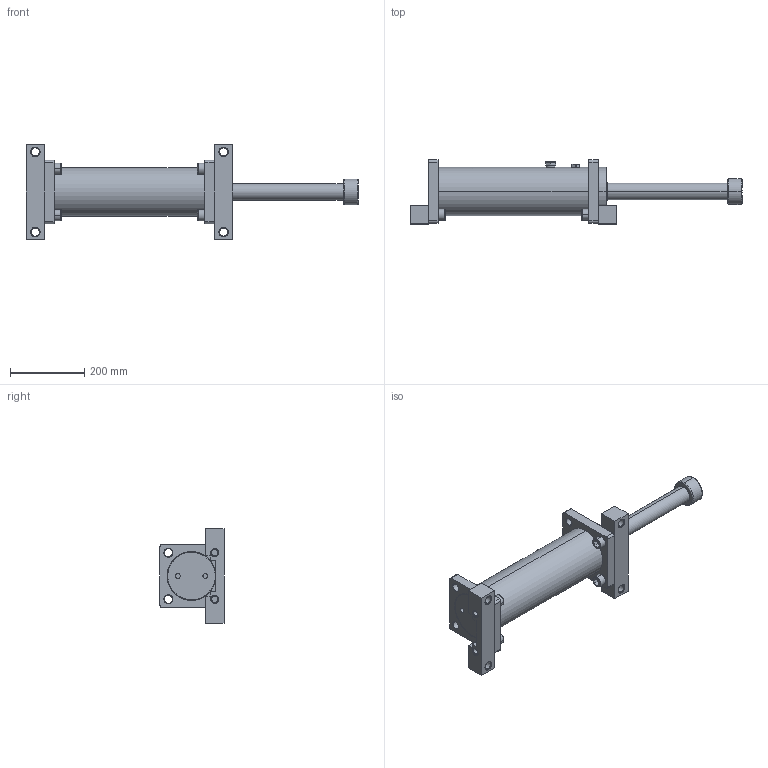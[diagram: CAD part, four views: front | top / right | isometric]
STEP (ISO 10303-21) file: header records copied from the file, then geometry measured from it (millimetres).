
FILE_DESCRIPTION (( 'STEP AP214' ), '1' );
FILE_NAME ('LDD3.0X12.STEP', '2019-01-16T07:02:35', ( 'user' ), ( 'Microsoft' ), 'SwSTEP 2.0', 'SolidWorks 2016', '' );
FILE_SCHEMA (( 'AUTOMOTIVE_DESIGN' ));
Length unit declared in the file: inch
Products named in the file (1): LDD3.0X12
Bounding box: 894 x 172.5 x 255 mm (x, y, z)
Surface area: 546447.8 mm2 (no closed solid volume)
Topology: 0 solids, 21 shells, 282 faces, 754 edges, 503 vertices
Faces by surface type: plane 109, cylinder 91, cone 52, bspline 30
Entity records: 15166 total; most frequent: CARTESIAN_POINT 8167, DIRECTION 1461, ORIENTED_EDGE 1366, EDGE_CURVE 754, AXIS2_PLACEMENT_3D 554, VERTEX_POINT 503, LINE 353, VECTOR 353
